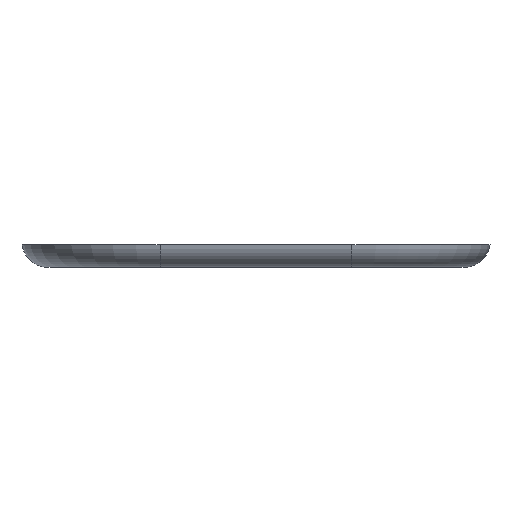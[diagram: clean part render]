
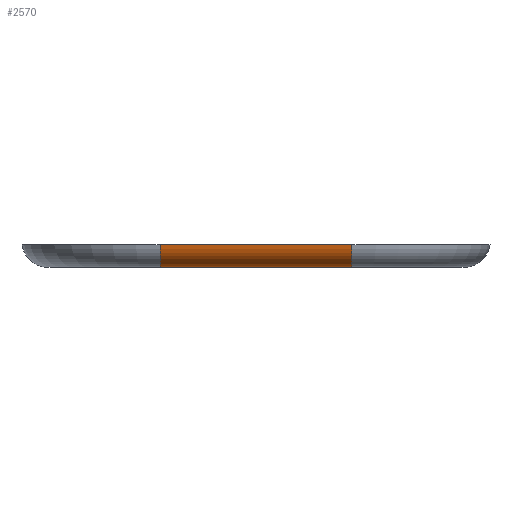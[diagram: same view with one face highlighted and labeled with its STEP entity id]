
A CAD part, front view. The second image highlights one B-rep face of the part: STEP entity #2570.
In plain terms, the highlighted cylindrical face has radius 5 mm (diameter 10 mm), a partial arc.
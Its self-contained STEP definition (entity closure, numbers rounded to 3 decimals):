
#71 = PLANE('',#72);
#72 = AXIS2_PLACEMENT_3D('',#73,#74,#75);
#73 = CARTESIAN_POINT('',(-44.,-68.,-13.6));
#74 = DIRECTION('',(0.,0.,1.));
#75 = DIRECTION('',(1.,0.,-0.));
#99 = TOROIDAL_SURFACE('',#100,21.,5.);
#100 = AXIS2_PLACEMENT_3D('',#101,#102,#103);
#101 = CARTESIAN_POINT('',(-18.,-42.,-8.6));
#102 = DIRECTION('',(-0.,-0.,-1.));
#103 = DIRECTION('',(0.,-1.,0.));
#123 = PLANE('',#124);
#124 = AXIS2_PLACEMENT_3D('',#125,#126,#127);
#125 = CARTESIAN_POINT('',(-100.,-110.,-9.3));
#126 = DIRECTION('',(0.,0.,1.));
#127 = DIRECTION('',(1.,0.,-0.));
#140 = VERTEX_POINT('',#141);
#141 = CARTESIAN_POINT('',(-18.,-67.951,-9.3));
#167 = EDGE_CURVE('',#168,#140,#170,.T.);
#168 = VERTEX_POINT('',#169);
#169 = CARTESIAN_POINT('',(18.,-67.951,-9.3));
#170 = SURFACE_CURVE('',#171,(#175,#182),.PCURVE_S1.);
#171 = LINE('',#172,#173);
#172 = CARTESIAN_POINT('',(18.,-67.951,-9.3));
#173 = VECTOR('',#174,1.);
#174 = DIRECTION('',(-1.,-0.,-0.));
#175 = PCURVE('',#123,#176);
#176 = DEFINITIONAL_REPRESENTATION('',(#177),#181);
#177 = LINE('',#178,#179);
#178 = CARTESIAN_POINT('',(118.,42.049));
#179 = VECTOR('',#180,1.);
#180 = DIRECTION('',(-1.,0.));
#181 = ( GEOMETRIC_REPRESENTATION_CONTEXT(2) 
PARAMETRIC_REPRESENTATION_CONTEXT() REPRESENTATION_CONTEXT('2D SPACE',''
  ) );
#182 = PCURVE('',#183,#188);
#183 = CYLINDRICAL_SURFACE('',#184,5.);
#184 = AXIS2_PLACEMENT_3D('',#185,#186,#187);
#185 = CARTESIAN_POINT('',(18.,-63.,-8.6));
#186 = DIRECTION('',(-1.,-0.,-0.));
#187 = DIRECTION('',(0.,-1.,0.));
#188 = DEFINITIONAL_REPRESENTATION('',(#189),#192);
#189 = B_SPLINE_CURVE_WITH_KNOTS('',1,(#190,#191),.UNSPECIFIED.,.F.,.F.,
  (2,2),(0.,36.),.PIECEWISE_BEZIER_KNOTS.);
#190 = CARTESIAN_POINT('',(6.143,0.));
#191 = CARTESIAN_POINT('',(6.143,36.));
#192 = ( GEOMETRIC_REPRESENTATION_CONTEXT(2) 
PARAMETRIC_REPRESENTATION_CONTEXT() REPRESENTATION_CONTEXT('2D SPACE',''
  ) );
#215 = TOROIDAL_SURFACE('',#216,21.,5.);
#216 = AXIS2_PLACEMENT_3D('',#217,#218,#219);
#217 = CARTESIAN_POINT('',(18.,-42.,-8.6));
#218 = DIRECTION('',(-0.,-0.,-1.));
#219 = DIRECTION('',(1.,0.,-0.));
#835 = VERTEX_POINT('',#836);
#836 = CARTESIAN_POINT('',(-18.,-63.,-13.6));
#862 = EDGE_CURVE('',#863,#835,#865,.T.);
#863 = VERTEX_POINT('',#864);
#864 = CARTESIAN_POINT('',(18.,-63.,-13.6));
#865 = SURFACE_CURVE('',#866,(#870,#877),.PCURVE_S1.);
#866 = LINE('',#867,#868);
#867 = CARTESIAN_POINT('',(18.,-63.,-13.6));
#868 = VECTOR('',#869,1.);
#869 = DIRECTION('',(-1.,-0.,-0.));
#870 = PCURVE('',#71,#871);
#871 = DEFINITIONAL_REPRESENTATION('',(#872),#876);
#872 = LINE('',#873,#874);
#873 = CARTESIAN_POINT('',(62.,5.));
#874 = VECTOR('',#875,1.);
#875 = DIRECTION('',(-1.,0.));
#876 = ( GEOMETRIC_REPRESENTATION_CONTEXT(2) 
PARAMETRIC_REPRESENTATION_CONTEXT() REPRESENTATION_CONTEXT('2D SPACE',''
  ) );
#877 = PCURVE('',#183,#878);
#878 = DEFINITIONAL_REPRESENTATION('',(#879),#883);
#879 = LINE('',#880,#881);
#880 = CARTESIAN_POINT('',(4.712,0.));
#881 = VECTOR('',#882,1.);
#882 = DIRECTION('',(-0.,1.));
#883 = ( GEOMETRIC_REPRESENTATION_CONTEXT(2) 
PARAMETRIC_REPRESENTATION_CONTEXT() REPRESENTATION_CONTEXT('2D SPACE',''
  ) );
#1449 = EDGE_CURVE('',#140,#835,#1450,.T.);
#1450 = SURFACE_CURVE('',#1451,(#1456,#1462),.PCURVE_S1.);
#1451 = CIRCLE('',#1452,5.);
#1452 = AXIS2_PLACEMENT_3D('',#1453,#1454,#1455);
#1453 = CARTESIAN_POINT('',(-18.,-63.,-8.6));
#1454 = DIRECTION('',(1.,0.,0.));
#1455 = DIRECTION('',(0.,-1.,0.));
#1456 = PCURVE('',#99,#1457);
#1457 = DEFINITIONAL_REPRESENTATION('',(#1458),#1461);
#1458 = B_SPLINE_CURVE_WITH_KNOTS('',1,(#1459,#1460),.UNSPECIFIED.,.F.,
  .F.,(2,2),(0.,1.571),.PIECEWISE_BEZIER_KNOTS.);
#1459 = CARTESIAN_POINT('',(0.,0.));
#1460 = CARTESIAN_POINT('',(0.,1.571));
#1461 = ( GEOMETRIC_REPRESENTATION_CONTEXT(2) 
PARAMETRIC_REPRESENTATION_CONTEXT() REPRESENTATION_CONTEXT('2D SPACE',''
  ) );
#1462 = PCURVE('',#183,#1463);
#1463 = DEFINITIONAL_REPRESENTATION('',(#1464),#1467);
#1464 = B_SPLINE_CURVE_WITH_KNOTS('',1,(#1465,#1466),.UNSPECIFIED.,.F.,
  .F.,(2,2),(0.,1.571),.PIECEWISE_BEZIER_KNOTS.);
#1465 = CARTESIAN_POINT('',(6.283,36.));
#1466 = CARTESIAN_POINT('',(4.712,36.));
#1467 = ( GEOMETRIC_REPRESENTATION_CONTEXT(2) 
PARAMETRIC_REPRESENTATION_CONTEXT() REPRESENTATION_CONTEXT('2D SPACE',''
  ) );
#2550 = EDGE_CURVE('',#168,#863,#2551,.T.);
#2551 = SURFACE_CURVE('',#2552,(#2557,#2563),.PCURVE_S1.);
#2552 = CIRCLE('',#2553,5.);
#2553 = AXIS2_PLACEMENT_3D('',#2554,#2555,#2556);
#2554 = CARTESIAN_POINT('',(18.,-63.,-8.6));
#2555 = DIRECTION('',(1.,0.,0.));
#2556 = DIRECTION('',(0.,-1.,0.));
#2557 = PCURVE('',#215,#2558);
#2558 = DEFINITIONAL_REPRESENTATION('',(#2559),#2562);
#2559 = B_SPLINE_CURVE_WITH_KNOTS('',1,(#2560,#2561),.UNSPECIFIED.,.F.,
  .F.,(2,2),(0.,1.571),.PIECEWISE_BEZIER_KNOTS.);
#2560 = CARTESIAN_POINT('',(1.571,0.));
#2561 = CARTESIAN_POINT('',(1.571,1.571));
#2562 = ( GEOMETRIC_REPRESENTATION_CONTEXT(2) 
PARAMETRIC_REPRESENTATION_CONTEXT() REPRESENTATION_CONTEXT('2D SPACE',''
  ) );
#2563 = PCURVE('',#183,#2564);
#2564 = DEFINITIONAL_REPRESENTATION('',(#2565),#2568);
#2565 = B_SPLINE_CURVE_WITH_KNOTS('',1,(#2566,#2567),.UNSPECIFIED.,.F.,
  .F.,(2,2),(0.,1.571),.PIECEWISE_BEZIER_KNOTS.);
#2566 = CARTESIAN_POINT('',(6.283,0.));
#2567 = CARTESIAN_POINT('',(4.712,0.));
#2568 = ( GEOMETRIC_REPRESENTATION_CONTEXT(2) 
PARAMETRIC_REPRESENTATION_CONTEXT() REPRESENTATION_CONTEXT('2D SPACE',''
  ) );
#2570 = ADVANCED_FACE('',(#2571),#183,.T.);
#2571 = FACE_BOUND('',#2572,.T.);
#2572 = EDGE_LOOP('',(#2573,#2574,#2575,#2576));
#2573 = ORIENTED_EDGE('',*,*,#1449,.T.);
#2574 = ORIENTED_EDGE('',*,*,#862,.F.);
#2575 = ORIENTED_EDGE('',*,*,#2550,.F.);
#2576 = ORIENTED_EDGE('',*,*,#167,.T.);
